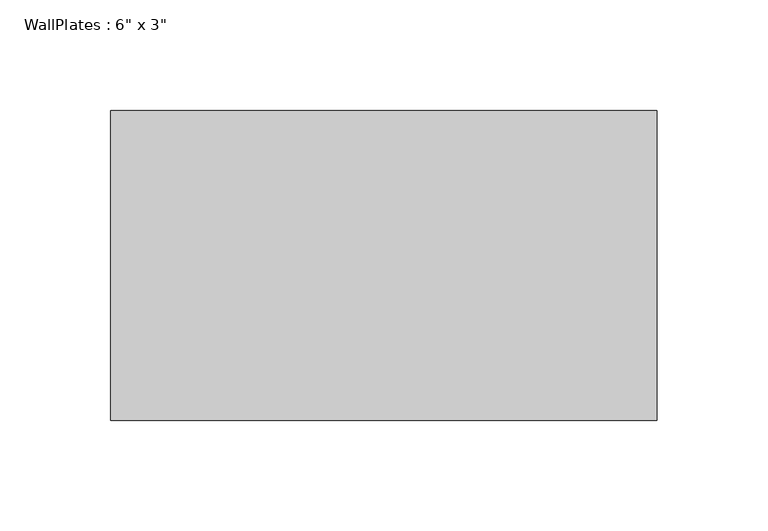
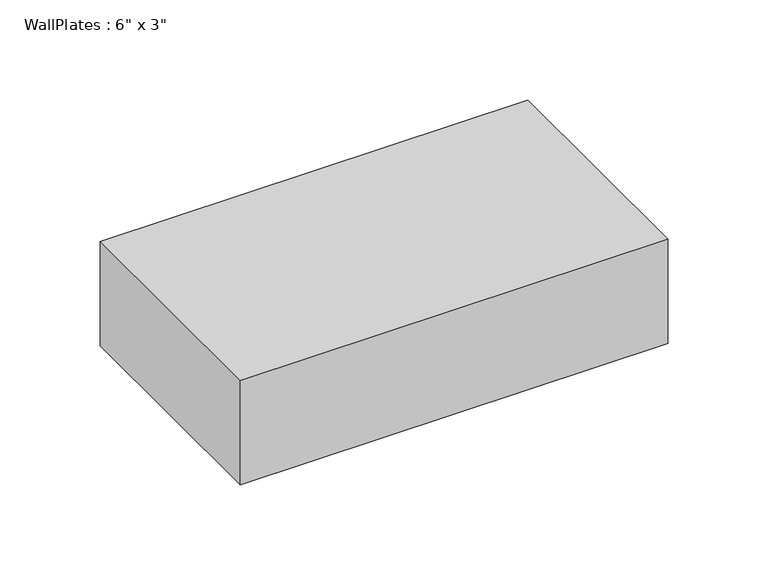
"""IFC4 building model written with IfcOpenShell, lengths in millimetres: beam geometry."""

from ifc_helpers import new_model, si_unit, frame, origin, place, context, project, spatial, polyline, outline, extrude, source, transform, mapped, element, save


def beam_4063e014(model_context):
    return source(origin(), model_context, "Body", "SweptSolid", [
        extrude(outline(polyline([(-123.19, -69.85), (-123.19, 69.85), (123.19, 69.85), (123.19, -69.85), (-123.19, -69.85)])), frame((0.0, 0.0, -31.75), z_axis=(0.0, 0.0, 1.0), x_axis=(1.0, 0.0, 0.0)), (0.0, 0.0, 1.0), 63.5),
    ])


if __name__ == "__main__":
    model = new_model("IFC4")
    model_context = context("Model", 3, world=origin())
    ifc_project = project(units=[si_unit("LENGTHUNIT", "METRE", prefix="MILLI")], contexts=[model_context])
    site = spatial("IfcSite", under=ifc_project)
    building = spatial("IfcBuilding", under=site)
    placement = place(None, origin())
    beam_shape = beam_4063e014(model_context)
    element("IfcBeam", 1, ObjectType="WallPlates : 6\" x 3\"", at=placement, inside=building, context=model_context, shape_type="MappedRepresentation", body=[
        mapped(beam_shape, transform((0.0, 0.0, 0.0), x_axis=(1.0, 0.0, 0.0), y_axis=(0.0, 1.0, 0.0), z_axis=(0.0, 0.0, 1.0))),
    ])
    save(model, "model.ifc")
